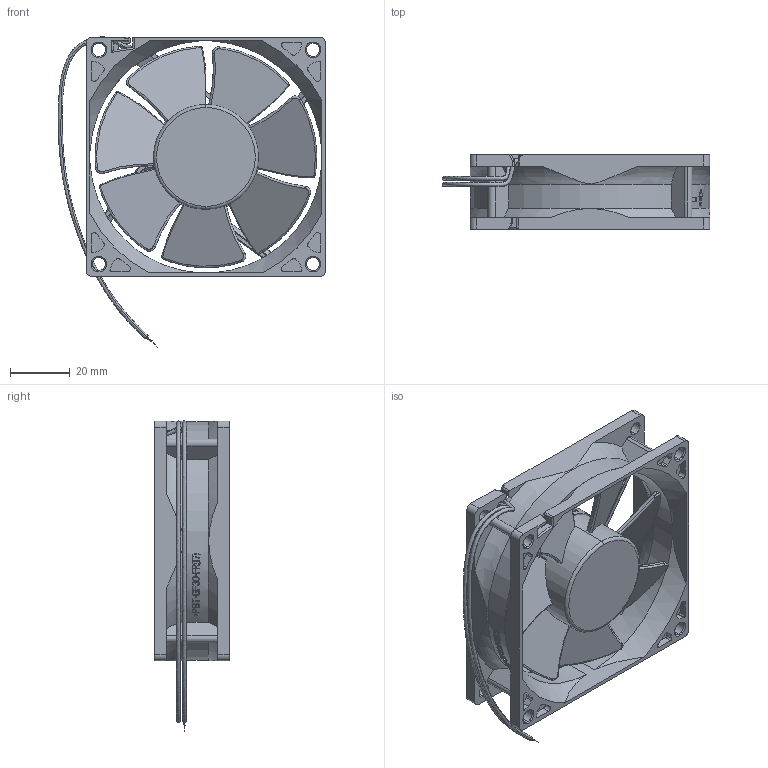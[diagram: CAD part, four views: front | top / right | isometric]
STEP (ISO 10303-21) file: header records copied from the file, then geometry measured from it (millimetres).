
FILE_DESCRIPTION (( 'STEP AP203' ), '1' );
FILE_NAME ('D08A.STEP', '2019-03-05T09:18:57', ( 'ced' ), ( 'Hewlett-Packard Company' ), 'SwSTEP 2.0', 'SolidWorks 2017', '' );
FILE_SCHEMA (( 'CONFIG_CONTROL_DESIGN' ));
Length unit declared in the file: millimetre
Products named in the file (1): D08A
Bounding box: 89.3 x 25 x 103.51 mm (x, y, z)
Surface area: 37144.2 mm2 (no closed solid volume)
Topology: 0 solids, 13 shells, 914 faces, 2454 edges, 1593 vertices
Faces by surface type: plane 490, cylinder 260, bspline 96, cone 44, torus 21, sphere 3
Entity records: 38521 total; most frequent: CARTESIAN_POINT 17335, ORIENTED_EDGE 4882, DIRECTION 3708, EDGE_CURVE 2442, VERTEX_POINT 1588, AXIS2_PLACEMENT_3D 1325, LINE 1058, VECTOR 1058
